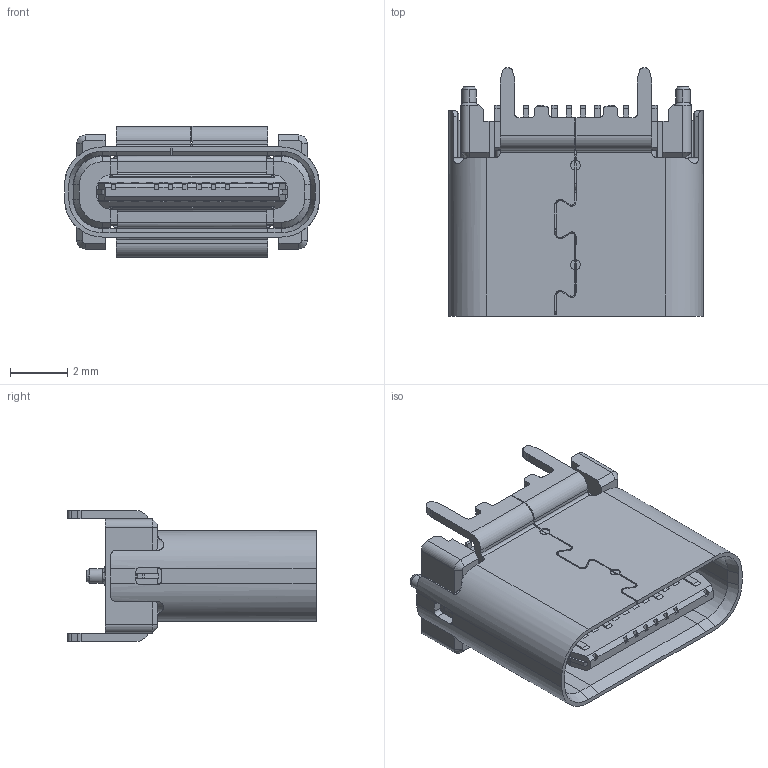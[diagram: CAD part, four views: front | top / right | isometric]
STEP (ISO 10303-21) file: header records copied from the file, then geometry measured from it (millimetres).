
FILE_DESCRIPTION (( 'STEP AP203' ), '1' );
FILE_NAME ('GT-UAB-7052B.STEP', '2023-04-26T07:46:19', ( '' ), ( '' ), 'SwSTEP 2.0', 'SolidWorks 2023', '' );
FILE_SCHEMA (( 'CONFIG_CONTROL_DESIGN' ));
Length unit declared in the file: millimetre
Products named in the file (1): GT-UAB-7052B
Bounding box: 8.94 x 8.71 x 4.6 mm (x, y, z)
Surface area: 608.6 mm2 (no closed solid volume)
Topology: 0 solids, 3 shells, 1458 faces, 4141 edges, 2717 vertices
Faces by surface type: plane 1013, cylinder 331, bspline 90, cone 20, torus 4
Entity records: 52299 total; most frequent: CARTESIAN_POINT 16287, ORIENTED_EDGE 8198, DIRECTION 6288, EDGE_CURVE 4141, VERTEX_POINT 2717, LINE 2656, VECTOR 2656, AXIS2_PLACEMENT_3D 1816
